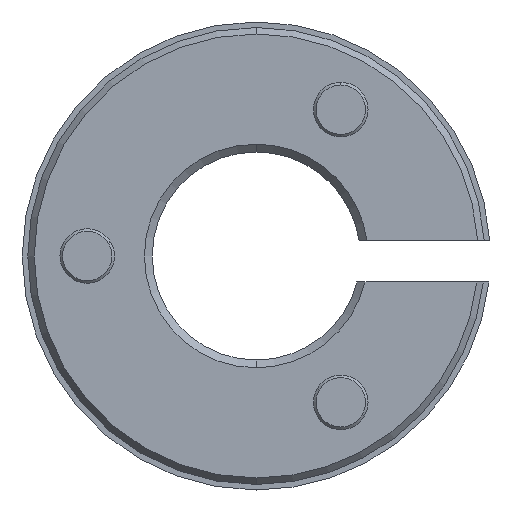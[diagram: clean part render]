
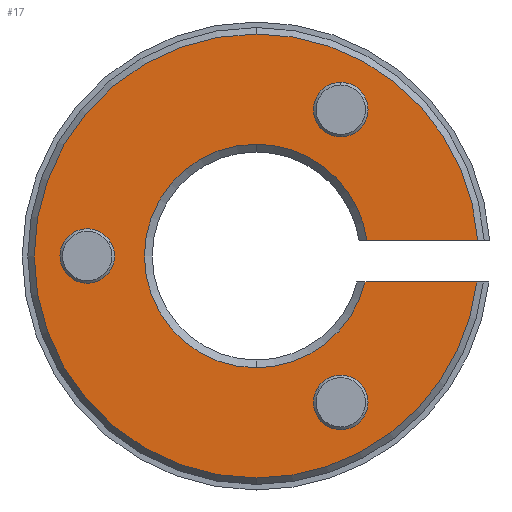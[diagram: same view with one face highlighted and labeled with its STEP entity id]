
A CAD part, left-side view. The second image highlights one B-rep face of the part: STEP entity #17.
In plain terms, the highlighted planar face has unit normal (-1, 0, 0).
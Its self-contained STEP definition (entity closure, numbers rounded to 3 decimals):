
#13 = DIRECTION ( 'NONE',  ( -1., 0., 0. ) ) ;
#17 = ADVANCED_FACE ( 'NONE', ( #28, #666, #1549, #2973 ), #3265, .F. ) ;
#26 = DIRECTION ( 'NONE',  ( 0., -0.973, -0.233 ) ) ;
#28 = FACE_BOUND ( 'NONE', #2256, .T. ) ;
#48 = DIRECTION ( 'NONE',  ( 1., 0., 0. ) ) ;
#62 = DIRECTION ( 'NONE',  ( -1., 0., 0. ) ) ;
#63 = EDGE_CURVE ( 'NONE', #1468, #3741, #870, .T. ) ;
#103 = CIRCLE ( 'NONE', #3173, 4.3 ) ;
#118 = EDGE_CURVE ( 'NONE', #3809, #814, #3200, .T. ) ;
#243 = EDGE_CURVE ( 'NONE', #2943, #1248, #1275, .T. ) ;
#281 = AXIS2_PLACEMENT_3D ( 'NONE', #1907, #1280, #1600 ) ;
#337 = CARTESIAN_POINT ( 'NONE',  ( 0., 0., 0. ) ) ;
#354 = CIRCLE ( 'NONE', #1335, 1.05 ) ;
#365 = DIRECTION ( 'NONE',  ( 1., 0., 0. ) ) ;
#488 = VERTEX_POINT ( 'NONE', #934 ) ;
#518 = CIRCLE ( 'NONE', #1814, 1.05 ) ;
#570 = EDGE_CURVE ( 'NONE', #1845, #3809, #921, .T. ) ;
#666 = FACE_BOUND ( 'NONE', #3666, .T. ) ;
#682 = CARTESIAN_POINT ( 'NONE',  ( 0., -3.25, -5.629 ) ) ;
#806 = AXIS2_PLACEMENT_3D ( 'NONE', #1517, #1190, #2023 ) ;
#814 = VERTEX_POINT ( 'NONE', #2303 ) ;
#830 = ORIENTED_EDGE ( 'NONE', *, *, #570, .F. ) ;
#851 = VERTEX_POINT ( 'NONE', #2567 ) ;
#870 = CIRCLE ( 'NONE', #1050, 1.05 ) ;
#895 = DIRECTION ( 'NONE',  ( 0., -1., 0. ) ) ;
#899 = ORIENTED_EDGE ( 'NONE', *, *, #63, .F. ) ;
#917 = DIRECTION ( 'NONE',  ( 0., -0.993, -0.117 ) ) ;
#921 = CIRCLE ( 'NONE', #2395, 8.54 ) ;
#934 = CARTESIAN_POINT ( 'NONE',  ( 0., -2.2, 5.629 ) ) ;
#936 = DIRECTION ( 'NONE',  ( 0., 0.5, -0.866 ) ) ;
#958 = CARTESIAN_POINT ( 'NONE',  ( 0., 0., 8.54 ) ) ;
#1046 = EDGE_CURVE ( 'NONE', #851, #2127, #518, .T. ) ;
#1050 = AXIS2_PLACEMENT_3D ( 'NONE', #682, #1855, #936 ) ;
#1090 = EDGE_CURVE ( 'NONE', #1248, #3179, #3225, .T. ) ;
#1154 = B_SPLINE_CURVE_WITH_KNOTS ( 'NONE', 3,
 ( #2295, #2557, #2242, #1684 ),
 .UNSPECIFIED., .F., .F.,
 ( 4, 4 ),
 ( 0., 1. ),
 .UNSPECIFIED. ) ;
#1159 = EDGE_CURVE ( 'NONE', #814, #1839, #1379, .T. ) ;
#1190 = DIRECTION ( 'NONE',  ( 1., 0., 0. ) ) ;
#1226 = CARTESIAN_POINT ( 'NONE',  ( 0., 0., 0. ) ) ;
#1228 = DIRECTION ( 'NONE',  ( 0., -0.993, -0.117 ) ) ;
#1240 = DIRECTION ( 'NONE',  ( 0., 1., 0. ) ) ;
#1248 = VERTEX_POINT ( 'NONE', #1956 ) ;
#1275 = CIRCLE ( 'NONE', #281, 4.3 ) ;
#1280 = DIRECTION ( 'NONE',  ( 1., 0., 0. ) ) ;
#1292 = DIRECTION ( 'NONE',  ( 0., -0.973, -0.233 ) ) ;
#1335 = AXIS2_PLACEMENT_3D ( 'NONE', #3812, #1727, #3792 ) ;
#1368 = CARTESIAN_POINT ( 'NONE',  ( 0., -3.25, 5.629 ) ) ;
#1376 = EDGE_LOOP ( 'NONE', ( #2934, #2271 ) ) ;
#1379 = LINE ( 'NONE', #2263, #2017 ) ;
#1464 = CARTESIAN_POINT ( 'NONE',  ( 0., -2.725, -6.538 ) ) ;
#1468 = VERTEX_POINT ( 'NONE', #1464 ) ;
#1489 = EDGE_CURVE ( 'NONE', #3741, #1468, #2131, .T. ) ;
#1517 = CARTESIAN_POINT ( 'NONE',  ( 0., 0., 0. ) ) ;
#1528 = DIRECTION ( 'NONE',  ( 1., 0., 0. ) ) ;
#1549 = FACE_BOUND ( 'NONE', #1376, .T. ) ;
#1566 = AXIS2_PLACEMENT_3D ( 'NONE', #2177, #365, #1292 ) ;
#1600 = DIRECTION ( 'NONE',  ( 0., -0.973, -0.233 ) ) ;
#1641 = CARTESIAN_POINT ( 'NONE',  ( 0., -4.258, 0.6 ) ) ;
#1643 = ORIENTED_EDGE ( 'NONE', *, *, #2287, .F. ) ;
#1684 = CARTESIAN_POINT ( 'NONE',  ( 0., -4.182, -1. ) ) ;
#1727 = DIRECTION ( 'NONE',  ( -1., 0., 0. ) ) ;
#1774 = CARTESIAN_POINT ( 'NONE',  ( 0., 0., 0. ) ) ;
#1797 = DIRECTION ( 'NONE',  ( 1., 0., 0. ) ) ;
#1814 = AXIS2_PLACEMENT_3D ( 'NONE', #1883, #2769, #2481 ) ;
#1839 = VERTEX_POINT ( 'NONE', #1641 ) ;
#1845 = VERTEX_POINT ( 'NONE', #2814 ) ;
#1855 = DIRECTION ( 'NONE',  ( -1., 0., 0. ) ) ;
#1873 = ORIENTED_EDGE ( 'NONE', *, *, #3604, .F. ) ;
#1883 = CARTESIAN_POINT ( 'NONE',  ( 0., 6.5, 0. ) ) ;
#1903 = EDGE_CURVE ( 'NONE', #3179, #1839, #103, .T. ) ;
#1907 = CARTESIAN_POINT ( 'NONE',  ( 0., 0., 0. ) ) ;
#1926 = EDGE_CURVE ( 'NONE', #1990, #488, #2251, .T. ) ;
#1956 = CARTESIAN_POINT ( 'NONE',  ( 0., 0., -4.3 ) ) ;
#1990 = VERTEX_POINT ( 'NONE', #2061 ) ;
#2000 = VERTEX_POINT ( 'NONE', #3316 ) ;
#2017 = VECTOR ( 'NONE', #2565, 1000. ) ;
#2019 = ORIENTED_EDGE ( 'NONE', *, *, #3444, .T. ) ;
#2023 = DIRECTION ( 'NONE',  ( 0., -0.993, -0.117 ) ) ;
#2061 = CARTESIAN_POINT ( 'NONE',  ( 0., -4.3, 5.629 ) ) ;
#2105 = CIRCLE ( 'NONE', #806, 8.54 ) ;
#2127 = VERTEX_POINT ( 'NONE', #3116 ) ;
#2131 = CIRCLE ( 'NONE', #2611, 1.05 ) ;
#2177 = CARTESIAN_POINT ( 'NONE',  ( 0., 0., 0. ) ) ;
#2199 = ORIENTED_EDGE ( 'NONE', *, *, #1090, .T. ) ;
#2242 = CARTESIAN_POINT ( 'NONE',  ( 0., -5.615, -1. ) ) ;
#2251 = CIRCLE ( 'NONE', #2867, 1.05 ) ;
#2256 = EDGE_LOOP ( 'NONE', ( #3162, #1643 ) ) ;
#2263 = CARTESIAN_POINT ( 'NONE',  ( 0., -8.519, 0.6 ) ) ;
#2271 = ORIENTED_EDGE ( 'NONE', *, *, #1926, .F. ) ;
#2287 = EDGE_CURVE ( 'NONE', #2127, #851, #354, .T. ) ;
#2295 = CARTESIAN_POINT ( 'NONE',  ( 0., -8.481, -1. ) ) ;
#2303 = CARTESIAN_POINT ( 'NONE',  ( 0., -8.519, 0.6 ) ) ;
#2363 = CARTESIAN_POINT ( 'NONE',  ( 0., -3.25, -5.629 ) ) ;
#2378 = ORIENTED_EDGE ( 'NONE', *, *, #243, .T. ) ;
#2395 = AXIS2_PLACEMENT_3D ( 'NONE', #1226, #1797, #917 ) ;
#2432 = ORIENTED_EDGE ( 'NONE', *, *, #1489, .F. ) ;
#2471 = CARTESIAN_POINT ( 'NONE',  ( 0., -3.775, -4.72 ) ) ;
#2481 = DIRECTION ( 'NONE',  ( 0., -0.5, -0.866 ) ) ;
#2504 = EDGE_CURVE ( 'NONE', #488, #1990, #2782, .T. ) ;
#2537 = DIRECTION ( 'NONE',  ( -1., 0., 0. ) ) ;
#2557 = CARTESIAN_POINT ( 'NONE',  ( 0., -7.048, -1. ) ) ;
#2565 = DIRECTION ( 'NONE',  ( 0., 1., 0. ) ) ;
#2567 = CARTESIAN_POINT ( 'NONE',  ( 0., 5.975, -0.909 ) ) ;
#2600 = ORIENTED_EDGE ( 'NONE', *, *, #1903, .T. ) ;
#2611 = AXIS2_PLACEMENT_3D ( 'NONE', #2363, #13, #3807 ) ;
#2680 = CARTESIAN_POINT ( 'NONE',  ( 0., 0., 0. ) ) ;
#2694 = CARTESIAN_POINT ( 'NONE',  ( 0., -3.25, 5.629 ) ) ;
#2769 = DIRECTION ( 'NONE',  ( -1., 0., 0. ) ) ;
#2782 = CIRCLE ( 'NONE', #3148, 1.05 ) ;
#2814 = CARTESIAN_POINT ( 'NONE',  ( 0., 0., -8.54 ) ) ;
#2867 = AXIS2_PLACEMENT_3D ( 'NONE', #1368, #2537, #895 ) ;
#2934 = ORIENTED_EDGE ( 'NONE', *, *, #2504, .F. ) ;
#2938 = CARTESIAN_POINT ( 'NONE',  ( 0., 0., 4.3 ) ) ;
#2943 = VERTEX_POINT ( 'NONE', #3096 ) ;
#2949 = DIRECTION ( 'NONE',  ( 1., 0., 0. ) ) ;
#2973 = FACE_OUTER_BOUND ( 'NONE', #3397, .T. ) ;
#3021 = AXIS2_PLACEMENT_3D ( 'NONE', #2680, #48, #1228 ) ;
#3096 = CARTESIAN_POINT ( 'NONE',  ( 0., -4.182, -1. ) ) ;
#3116 = CARTESIAN_POINT ( 'NONE',  ( 0., 7.025, 0.909 ) ) ;
#3148 = AXIS2_PLACEMENT_3D ( 'NONE', #2694, #62, #1240 ) ;
#3155 = AXIS2_PLACEMENT_3D ( 'NONE', #337, #1528, #3591 ) ;
#3162 = ORIENTED_EDGE ( 'NONE', *, *, #1046, .F. ) ;
#3173 = AXIS2_PLACEMENT_3D ( 'NONE', #1774, #2949, #26 ) ;
#3179 = VERTEX_POINT ( 'NONE', #2938 ) ;
#3200 = CIRCLE ( 'NONE', #3021, 8.54 ) ;
#3223 = ORIENTED_EDGE ( 'NONE', *, *, #118, .F. ) ;
#3225 = CIRCLE ( 'NONE', #1566, 4.3 ) ;
#3265 = PLANE ( 'NONE',  #3155 ) ;
#3316 = CARTESIAN_POINT ( 'NONE',  ( 0., -8.481, -1. ) ) ;
#3396 = ORIENTED_EDGE ( 'NONE', *, *, #1159, .F. ) ;
#3397 = EDGE_LOOP ( 'NONE', ( #2019, #2378, #2199, #2600, #3396, #3223, #830, #1873 ) ) ;
#3444 = EDGE_CURVE ( 'NONE', #2000, #2943, #1154, .T. ) ;
#3591 = DIRECTION ( 'NONE',  ( 0., 1., 0. ) ) ;
#3604 = EDGE_CURVE ( 'NONE', #2000, #1845, #2105, .T. ) ;
#3666 = EDGE_LOOP ( 'NONE', ( #2432, #899 ) ) ;
#3741 = VERTEX_POINT ( 'NONE', #2471 ) ;
#3792 = DIRECTION ( 'NONE',  ( 0., 0.5, 0.866 ) ) ;
#3807 = DIRECTION ( 'NONE',  ( 0., -0.5, 0.866 ) ) ;
#3809 = VERTEX_POINT ( 'NONE', #958 ) ;
#3812 = CARTESIAN_POINT ( 'NONE',  ( 0., 6.5, 0. ) ) ;
